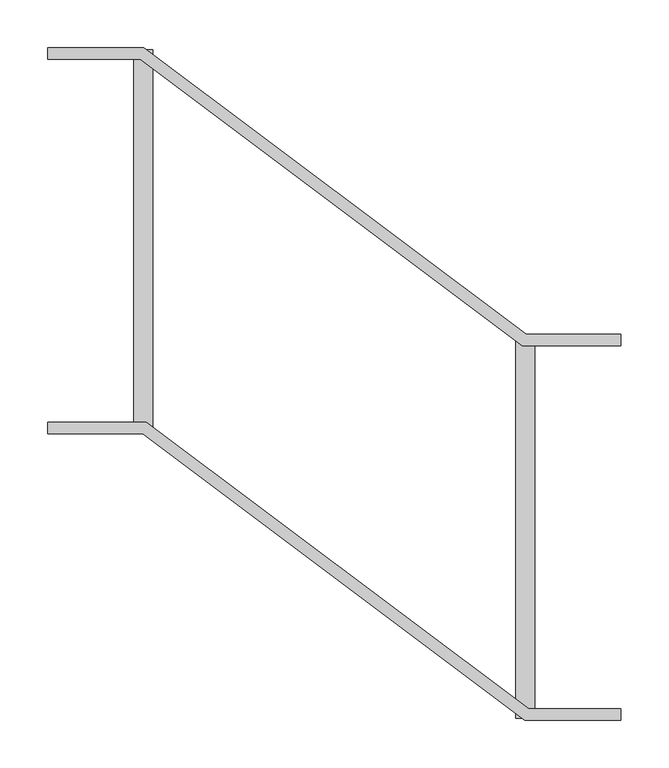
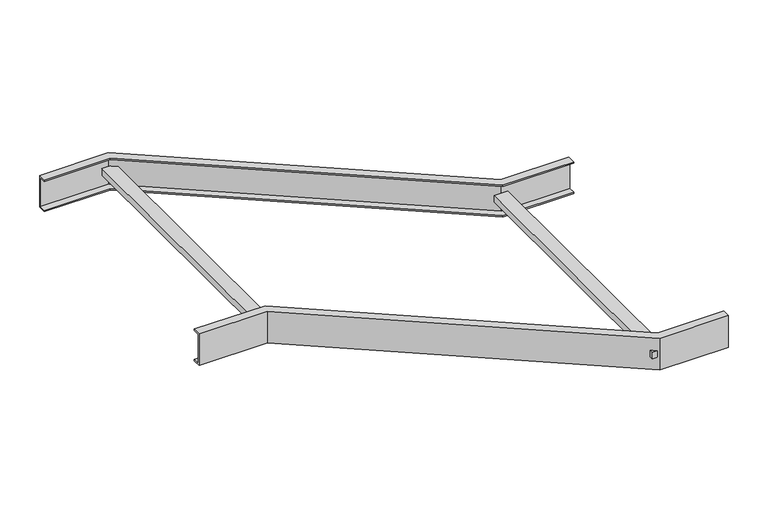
"""IFC4 building model written with IfcOpenShell, lengths in millimetres: cable carrier fitting geometry, BAKS_LD_CONN_Univarsal connector offset_LLUS : LLUS_H45."""

from ifc_helpers import new_model, si_unit, frame, origin, place, context, project, spatial, polyline, outline, extrude, faceted_brep, source, transform, mapped, element, save


def cable_carrier_fitting_82e7e0fc(model_context):
    return source(origin(), model_context, "Body", "SolidModel", [
        extrude(outline(polyline([(20.0, 200.0), (40.0, 200.0), (40.0, -200.0), (20.0, -200.0), (20.0, 200.0)])), frame((0.0, 0.0, -5.0), z_axis=(0.0, 0.0, 1.0), x_axis=(1.0, 0.0, 0.0)), (0.0, 0.0, 1.0), 10.0),
        extrude(outline(polyline([(440.0, -500.0), (420.0, -500.0), (420.0, -100.0), (440.0, -100.0), (440.0, -500.0)])), frame((0.0, 0.0, -5.0), z_axis=(0.0, 0.0, 1.0), x_axis=(1.0, 0.0, 0.0)), (0.0, 0.0, 1.0), 10.0),
        faceted_brep([(-70.0, -190.0, 24.5), (-70.0, -190.0, 22.5), (-70.0, -200.0, 22.5), (-70.0, -200.0, -22.5), (-70.0, -190.0, -22.5), (-70.0, -190.0, -24.5), (-70.0, -202.0, -24.5), (-70.0, -202.0, 24.5), (33.3333333, -190.0, 24.5), (33.3333333, -190.0, 22.5), (433.3333333, -490.0, 22.5), (530.0, -490.0, 22.5), (530.0, -500.0, 22.5), (430.0, -500.0, 22.5), (30.0, -200.0, 22.5), (30.0, -200.0, -22.5), (430.0, -500.0, -22.5), (530.0, -500.0, -22.5), (530.0, -490.0, -22.5), (433.3333333, -490.0, -22.5), (33.3333333, -190.0, -22.5), (33.3333333, -190.0, -24.5), (433.3333333, -490.0, -24.5), (530.0, -490.0, -24.5), (530.0, -502.0, -24.5), (429.3333333, -502.0, -24.5), (29.3333333, -202.0, -24.5), (29.3333333, -202.0, 24.5), (429.3333333, -502.0, 24.5), (530.0, -502.0, 24.5), (530.0, -490.0, 24.5), (433.3333333, -490.0, 24.5)], [[[0, 1, 2, 3, 4, 5, 6, 7]], [[1, 0, 8, 9]], [[2, 1, 9, 10, 11, 12, 13, 14]], [[3, 2, 14, 15]], [[4, 3, 15, 16, 17, 18, 19, 20]], [[5, 4, 20, 21]], [[6, 5, 21, 22, 23, 24, 25, 26]], [[7, 6, 26, 27]], [[0, 7, 27, 28, 29, 30, 31, 8]], [[9, 8, 31, 10]], [[15, 14, 13, 16]], [[21, 20, 19, 22]], [[27, 26, 25, 28]], [[30, 29, 24, 23, 18, 17, 12, 11]], [[10, 31, 30, 11]], [[16, 13, 12, 17]], [[22, 19, 18, 23]], [[28, 25, 24, 29]]]),
        faceted_brep([(530.0, -110.0, 24.5), (530.0, -110.0, 22.5), (530.0, -100.0, 22.5), (530.0, -100.0, -22.5), (530.0, -110.0, -22.5), (530.0, -110.0, -24.5), (530.0, -98.0, -24.5), (530.0, -98.0, 24.5), (426.6666667, -110.0, 24.5), (426.6666667, -110.0, 22.5), (26.6666667, 190.0, 22.5), (-70.0, 190.0, 22.5), (-70.0, 200.0, 22.5), (30.0, 200.0, 22.5), (430.0, -100.0, 22.5), (430.0, -100.0, -22.5), (30.0, 200.0, -22.5), (-70.0, 200.0, -22.5), (-70.0, 190.0, -22.5), (26.6666667, 190.0, -22.5), (426.6666667, -110.0, -22.5), (426.6666667, -110.0, -24.5), (26.6666667, 190.0, -24.5), (-70.0, 190.0, -24.5), (-70.0, 202.0, -24.5), (30.6666667, 202.0, -24.5), (430.6666667, -98.0, -24.5), (430.6666667, -98.0, 24.5), (30.6666667, 202.0, 24.5), (-70.0, 202.0, 24.5), (-70.0, 190.0, 24.5), (26.6666667, 190.0, 24.5)], [[[0, 1, 2, 3, 4, 5, 6, 7]], [[1, 0, 8, 9]], [[2, 1, 9, 10, 11, 12, 13, 14]], [[3, 2, 14, 15]], [[4, 3, 15, 16, 17, 18, 19, 20]], [[5, 4, 20, 21]], [[6, 5, 21, 22, 23, 24, 25, 26]], [[7, 6, 26, 27]], [[0, 7, 27, 28, 29, 30, 31, 8]], [[9, 8, 31, 10]], [[15, 14, 13, 16]], [[21, 20, 19, 22]], [[27, 26, 25, 28]], [[30, 29, 24, 23, 18, 17, 12, 11]], [[10, 31, 30, 11]], [[16, 13, 12, 17]], [[22, 19, 18, 23]], [[28, 25, 24, 29]]]),
    ])


if __name__ == "__main__":
    model = new_model("IFC4")
    model_context = context("Model", 3, world=origin())
    ifc_project = project(units=[si_unit("LENGTHUNIT", "METRE", prefix="MILLI")], contexts=[model_context])
    site = spatial("IfcSite", under=ifc_project)
    building = spatial("IfcBuilding", under=site)
    placement = place(None, origin())
    cable_carrier_fitting_shape = cable_carrier_fitting_82e7e0fc(model_context)
    element("IfcCableCarrierFitting", 1, ObjectType="BAKS_LD_CONN_Univarsal connector offset_LLUS : LLUS_H45", at=placement, inside=building, context=model_context, shape_type="MappedRepresentation", body=[
        mapped(cable_carrier_fitting_shape, transform((0.0, 0.0, 0.0), x_axis=(1.0, 0.0, 0.0), y_axis=(0.0, 1.0, 0.0), z_axis=(0.0, 0.0, 1.0))),
    ])
    save(model, "model.ifc")
